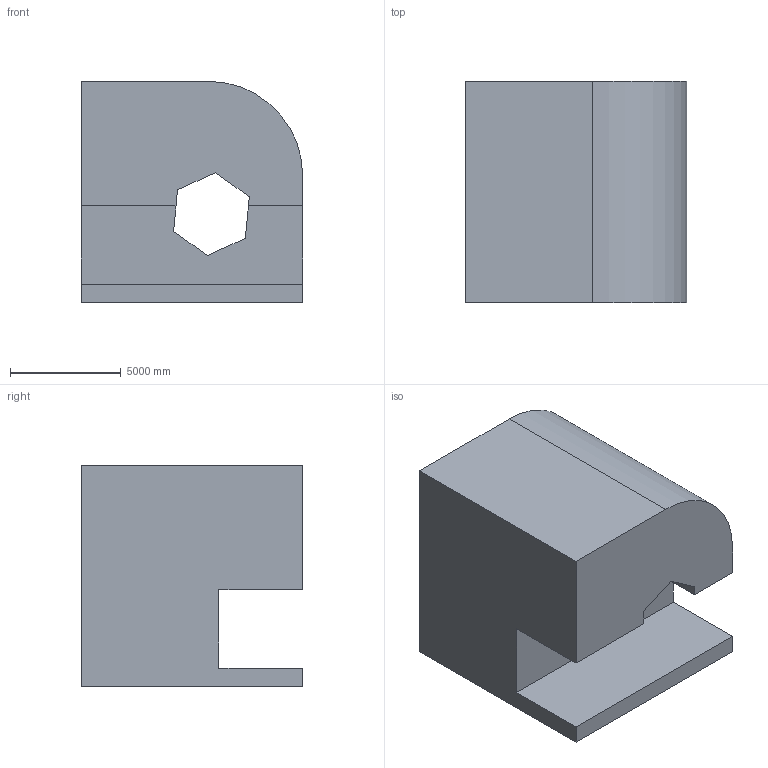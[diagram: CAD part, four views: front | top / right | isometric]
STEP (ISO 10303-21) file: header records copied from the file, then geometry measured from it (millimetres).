
FILE_DESCRIPTION (( 'STEP AP203' ), '1' );
FILE_NAME ('1224.STEP', '2022-08-18T13:16:04', ( 'user' ), ( '' ), 'SwSTEP 2.0', 'SolidWorks 2021', '' );
FILE_SCHEMA (( 'CONFIG_CONTROL_DESIGN' ));
Length unit declared in the file: centimetre
Products named in the file (1): 1224
Bounding box: 10000 x 10000 x 10000 mm (x, y, z)
Volume: 757706498483.1 mm3; surface area: 680803532.9 mm2
Topology: 1 solids, 1 shells, 18 faces, 51 edges, 34 vertices
Faces by surface type: plane 17, cylinder 1
Entity records: 658 total; most frequent: CARTESIAN_POINT 104, ORIENTED_EDGE 102, DIRECTION 91, EDGE_CURVE 51, LINE 49, VECTOR 49, VERTEX_POINT 34, AXIS2_PLACEMENT_3D 21
